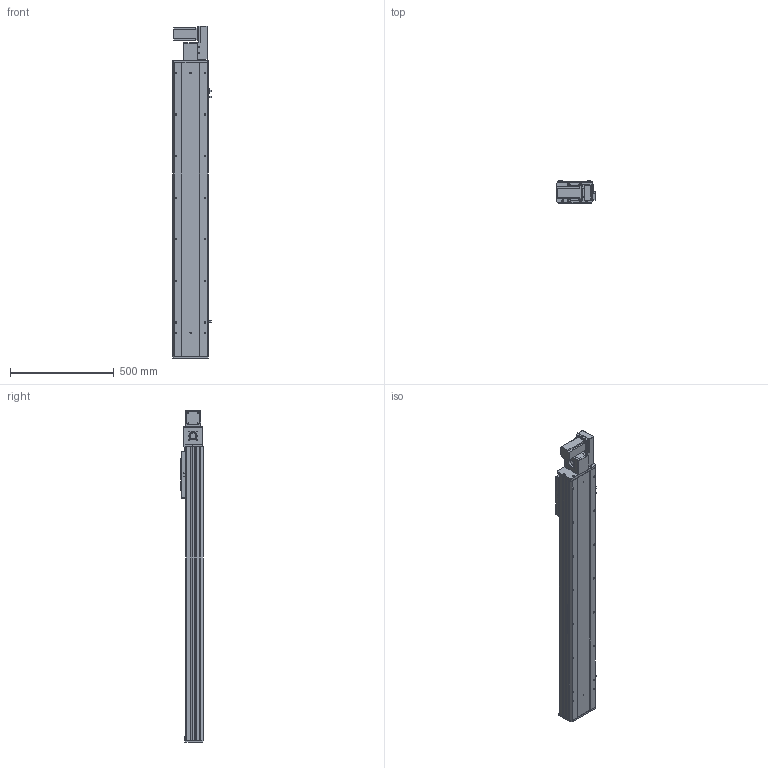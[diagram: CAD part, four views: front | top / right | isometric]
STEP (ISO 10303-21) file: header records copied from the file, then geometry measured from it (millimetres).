
FILE_DESCRIPTION (( 'STEP AP203' ), '1' );
FILE_NAME ('Y170CB-D105-S1100-BR-P400W.STEP', '2020-02-19T09:11:46', ( '微软用户' ), ( '微软中国' ), 'SwSTEP 2.0', 'SolidWorks 2017', '' );
FILE_SCHEMA (( 'CONFIG_CONTROL_DESIGN' ));
Length unit declared in the file: millimetre
Products named in the file (17): Y170CB-陔俋离換覜結え---; Y170CB-D105-S1100-BR-P400W; 70B喘謫眊----; B-源倛裔啣; 17B-耜蚾蟀諉啣----; 0B-萇儂楊擘啣; san松下电机400不带刹车----; Y70俋欶BR----; 70CB-詩湍--; 70CB-掛极-; Y100-135俋离換覜ん--; --70CB --喘謫眊楊擘啣-; 0C--雄赽釱俋欶-170; 70CB-耜裔啣-; 70C--詩湍揤踡え-; 70CB--耜裔; 70C-雄赽釱-奻-
Assembly tree (20 placements, depth 2):
  Y170CB-D105-S1100-BR-P400W
    70B喘謫眊----
    B-源倛裔啣
    17B-耜蚾蟀諉啣----
    0B-萇儂楊擘啣
    san松下电机400不带刹车----
    Y70俋欶BR----
    70CB-掛极-
    --70CB --喘謫眊楊擘啣-
    70CB-耜裔啣-  x2
    70C--詩湍揤踡え-  x2
    70CB--耜裔
    70C-雄赽釱-奻-
    0C--雄赽釱俋欶-170
    70CB-詩湍--
    Y100-135俋离換覜ん--  x3
    Y170CB-陔俋离換覜結え---
Bounding box: 183.5 x 107 x 1597 mm (x, y, z)
Volume: 6925475.8 mm3; surface area: 2477286.8 mm2
Topology: 20 solids, 20 shells, 1001 faces, 2681 edges, 1778 vertices
Faces by surface type: cylinder 515, plane 462, cone 24
Entity records: 31751 total; most frequent: CARTESIAN_POINT 5841, DIRECTION 5164, ORIENTED_EDGE 4844, EDGE_CURVE 2422, AXIS2_PLACEMENT_3D 1885, VERTEX_POINT 1608, VECTOR 1394, LINE 1394
